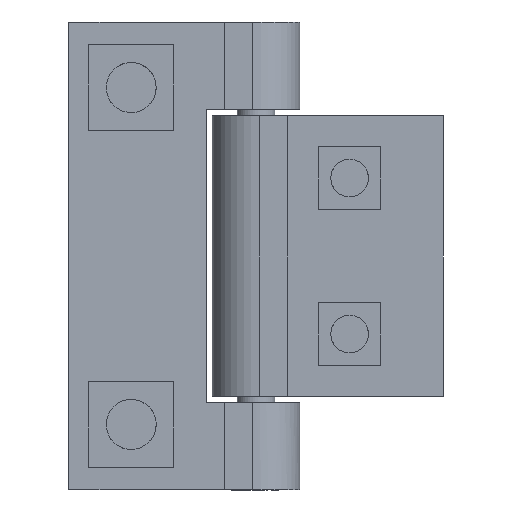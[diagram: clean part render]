
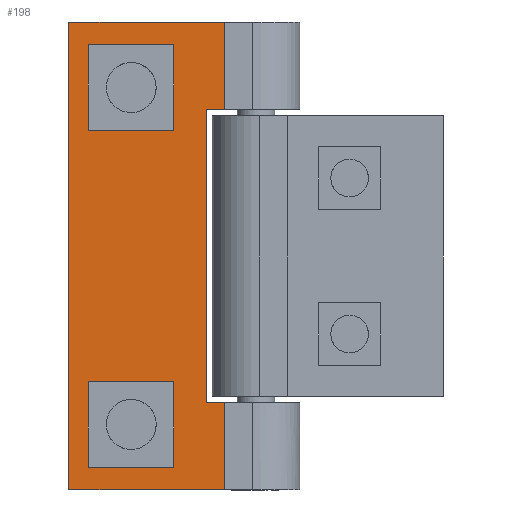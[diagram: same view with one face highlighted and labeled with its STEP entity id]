
A CAD part, front view. The second image highlights one B-rep face of the part: STEP entity #198.
In plain terms, the highlighted planar face has unit normal (0, -1, 0).
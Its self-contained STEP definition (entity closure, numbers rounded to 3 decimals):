
#63=FACE_BOUND($,#514,.T.);
#64=FACE_BOUND($,#515,.T.);
#198=ADVANCED_FACE($,(#341,#63,#64),#1793,.T.);
#341=FACE_OUTER_BOUND($,#513,.T.);
#513=EDGE_LOOP($,(#1092,#1093,#1094,#1095,#1096,#1097,#1098,#1099));
#514=EDGE_LOOP($,(#1100,#1101));
#515=EDGE_LOOP($,(#1102,#1103));
#1092=ORIENTED_EDGE($,*,*,#1477,.F.);
#1093=ORIENTED_EDGE($,*,*,#1458,.T.);
#1094=ORIENTED_EDGE($,*,*,#1479,.T.);
#1095=ORIENTED_EDGE($,*,*,#1480,.T.);
#1096=ORIENTED_EDGE($,*,*,#1481,.T.);
#1097=ORIENTED_EDGE($,*,*,#1482,.T.);
#1098=ORIENTED_EDGE($,*,*,#1483,.T.);
#1099=ORIENTED_EDGE($,*,*,#1484,.T.);
#1100=ORIENTED_EDGE($,*,*,#1428,.T.);
#1101=ORIENTED_EDGE($,*,*,#1443,.T.);
#1102=ORIENTED_EDGE($,*,*,#1456,.T.);
#1103=ORIENTED_EDGE($,*,*,#1420,.T.);
#1420=EDGE_CURVE($,#1665,#1667,#1968,.T.);
#1428=EDGE_CURVE($,#1673,#1675,#1972,.T.);
#1443=EDGE_CURVE($,#1675,#1673,#1973,.T.);
#1456=EDGE_CURVE($,#1667,#1665,#1978,.T.);
#1458=EDGE_CURVE($,#1697,#1696,#2148,.T.);
#1477=EDGE_CURVE($,#1697,#1708,#2165,.T.);
#1479=EDGE_CURVE($,#1696,#1709,#2167,.T.);
#1480=EDGE_CURVE($,#1709,#1710,#2168,.T.);
#1481=EDGE_CURVE($,#1710,#1711,#2169,.T.);
#1482=EDGE_CURVE($,#1711,#1712,#2170,.T.);
#1483=EDGE_CURVE($,#1712,#1713,#2171,.T.);
#1484=EDGE_CURVE($,#1713,#1708,#2172,.T.);
#1665=VERTEX_POINT($,#4285);
#1667=VERTEX_POINT($,#4287);
#1673=VERTEX_POINT($,#4293);
#1675=VERTEX_POINT($,#4295);
#1696=VERTEX_POINT($,#4316);
#1697=VERTEX_POINT($,#4317);
#1708=VERTEX_POINT($,#4328);
#1709=VERTEX_POINT($,#4329);
#1710=VERTEX_POINT($,#4330);
#1711=VERTEX_POINT($,#4331);
#1712=VERTEX_POINT($,#4332);
#1713=VERTEX_POINT($,#4333);
#1793=PLANE($,#2349);
#1968=(
BOUNDED_CURVE()
B_SPLINE_CURVE(2,(#3950,#3951,#3952,#3953,#3954),.UNSPECIFIED.,.F.,.F.)
B_SPLINE_CURVE_WITH_KNOTS((3,2,3),(0.,7.069,14.137),
.UNSPECIFIED.)
CURVE()
GEOMETRIC_REPRESENTATION_ITEM()
RATIONAL_B_SPLINE_CURVE((1.,0.707,1.,0.707,1.))
REPRESENTATION_ITEM($)
);
#1972=(
BOUNDED_CURVE()
B_SPLINE_CURVE(2,(#3978,#3979,#3980,#3981,#3982),.UNSPECIFIED.,.F.,.F.)
B_SPLINE_CURVE_WITH_KNOTS((3,2,3),(0.,7.069,14.137),
.UNSPECIFIED.)
CURVE()
GEOMETRIC_REPRESENTATION_ITEM()
RATIONAL_B_SPLINE_CURVE((1.,0.707,1.,0.707,1.))
REPRESENTATION_ITEM($)
);
#1973=(
BOUNDED_CURVE()
B_SPLINE_CURVE(2,(#4011,#4012,#4013,#4014,#4015),.UNSPECIFIED.,.F.,.F.)
B_SPLINE_CURVE_WITH_KNOTS((3,2,3),(0.,7.069,14.137),
.UNSPECIFIED.)
CURVE()
GEOMETRIC_REPRESENTATION_ITEM()
RATIONAL_B_SPLINE_CURVE((1.,0.707,1.,0.707,1.))
REPRESENTATION_ITEM($)
);
#1978=(
BOUNDED_CURVE()
B_SPLINE_CURVE(2,(#4052,#4053,#4054,#4055,#4056),.UNSPECIFIED.,.F.,.F.)
B_SPLINE_CURVE_WITH_KNOTS((3,2,3),(0.,7.069,14.137),
.UNSPECIFIED.)
CURVE()
GEOMETRIC_REPRESENTATION_ITEM()
RATIONAL_B_SPLINE_CURVE((1.,0.707,1.,0.707,1.))
REPRESENTATION_ITEM($)
);
#2148=B_SPLINE_CURVE_WITH_KNOTS($,1,(#4059,#4060),.UNSPECIFIED.,.F.,.F.,
(2,2),(0.,3.),.UNSPECIFIED.);
#2165=B_SPLINE_CURVE_WITH_KNOTS($,1,(#4099,#4100),.UNSPECIFIED.,.F.,.F.,
(2,2),(0.,14.),.UNSPECIFIED.);
#2167=B_SPLINE_CURVE_WITH_KNOTS($,1,(#4103,#4104),.UNSPECIFIED.,.F.,.F.,
(2,2),(0.,47.),.UNSPECIFIED.);
#2168=B_SPLINE_CURVE_WITH_KNOTS($,1,(#4105,#4106),.UNSPECIFIED.,.F.,.F.,
(2,2),(0.,3.),.UNSPECIFIED.);
#2169=B_SPLINE_CURVE_WITH_KNOTS($,1,(#4107,#4108),.UNSPECIFIED.,.F.,.F.,
(2,2),(-14.,0.),.UNSPECIFIED.);
#2170=B_SPLINE_CURVE_WITH_KNOTS($,1,(#4109,#4110),.UNSPECIFIED.,.F.,.F.,
(2,2),(0.,25.),.UNSPECIFIED.);
#2171=B_SPLINE_CURVE_WITH_KNOTS($,1,(#4111,#4112),.UNSPECIFIED.,.F.,.F.,
(2,2),(0.,75.),.UNSPECIFIED.);
#2172=B_SPLINE_CURVE_WITH_KNOTS($,1,(#4113,#4114),.UNSPECIFIED.,.F.,.F.,
(2,2),(0.,25.),.UNSPECIFIED.);
#2349=AXIS2_PLACEMENT_3D($,#4253,#2434,$);
#2434=DIRECTION($,(0.,-1.,0.));
#3950=CARTESIAN_POINT($,(-15.5,-8.,-10.5));
#3951=CARTESIAN_POINT($,(-15.5,-8.,-15.));
#3952=CARTESIAN_POINT($,(-20.,-8.,-15.));
#3953=CARTESIAN_POINT($,(-24.5,-8.,-15.));
#3954=CARTESIAN_POINT($,(-24.5,-8.,-10.5));
#3978=CARTESIAN_POINT($,(-15.5,-8.,-64.5));
#3979=CARTESIAN_POINT($,(-15.5,-8.,-69.));
#3980=CARTESIAN_POINT($,(-20.,-8.,-69.));
#3981=CARTESIAN_POINT($,(-24.5,-8.,-69.));
#3982=CARTESIAN_POINT($,(-24.5,-8.,-64.5));
#4011=CARTESIAN_POINT($,(-24.5,-8.,-64.5));
#4012=CARTESIAN_POINT($,(-24.5,-8.,-60.));
#4013=CARTESIAN_POINT($,(-20.,-8.,-60.));
#4014=CARTESIAN_POINT($,(-15.5,-8.,-60.));
#4015=CARTESIAN_POINT($,(-15.5,-8.,-64.5));
#4052=CARTESIAN_POINT($,(-24.5,-8.,-10.5));
#4053=CARTESIAN_POINT($,(-24.5,-8.,-6.));
#4054=CARTESIAN_POINT($,(-20.,-8.,-6.));
#4055=CARTESIAN_POINT($,(-15.5,-8.,-6.));
#4056=CARTESIAN_POINT($,(-15.5,-8.,-10.5));
#4059=CARTESIAN_POINT($,(-5.,-8.,-61.));
#4060=CARTESIAN_POINT($,(-8.,-8.,-61.));
#4099=CARTESIAN_POINT($,(-5.,-8.,-61.));
#4100=CARTESIAN_POINT($,(-5.,-8.,-75.));
#4103=CARTESIAN_POINT($,(-8.,-8.,-61.));
#4104=CARTESIAN_POINT($,(-8.,-8.,-14.));
#4105=CARTESIAN_POINT($,(-8.,-8.,-14.));
#4106=CARTESIAN_POINT($,(-5.,-8.,-14.));
#4107=CARTESIAN_POINT($,(-5.,-8.,-14.));
#4108=CARTESIAN_POINT($,(-5.,-8.,0.));
#4109=CARTESIAN_POINT($,(-5.,-8.,0.));
#4110=CARTESIAN_POINT($,(-30.,-8.,0.));
#4111=CARTESIAN_POINT($,(-30.,-8.,0.));
#4112=CARTESIAN_POINT($,(-30.,-8.,-75.));
#4113=CARTESIAN_POINT($,(-30.,-8.,-75.));
#4114=CARTESIAN_POINT($,(-5.,-8.,-75.));
#4253=CARTESIAN_POINT($,(-5.,-8.,0.));
#4285=CARTESIAN_POINT($,(-15.5,-8.,-10.5));
#4287=CARTESIAN_POINT($,(-24.5,-8.,-10.5));
#4293=CARTESIAN_POINT($,(-15.5,-8.,-64.5));
#4295=CARTESIAN_POINT($,(-24.5,-8.,-64.5));
#4316=CARTESIAN_POINT($,(-8.,-8.,-61.));
#4317=CARTESIAN_POINT($,(-5.,-8.,-61.));
#4328=CARTESIAN_POINT($,(-5.,-8.,-75.));
#4329=CARTESIAN_POINT($,(-8.,-8.,-14.));
#4330=CARTESIAN_POINT($,(-5.,-8.,-14.));
#4331=CARTESIAN_POINT($,(-5.,-8.,0.));
#4332=CARTESIAN_POINT($,(-30.,-8.,0.));
#4333=CARTESIAN_POINT($,(-30.,-8.,-75.));
